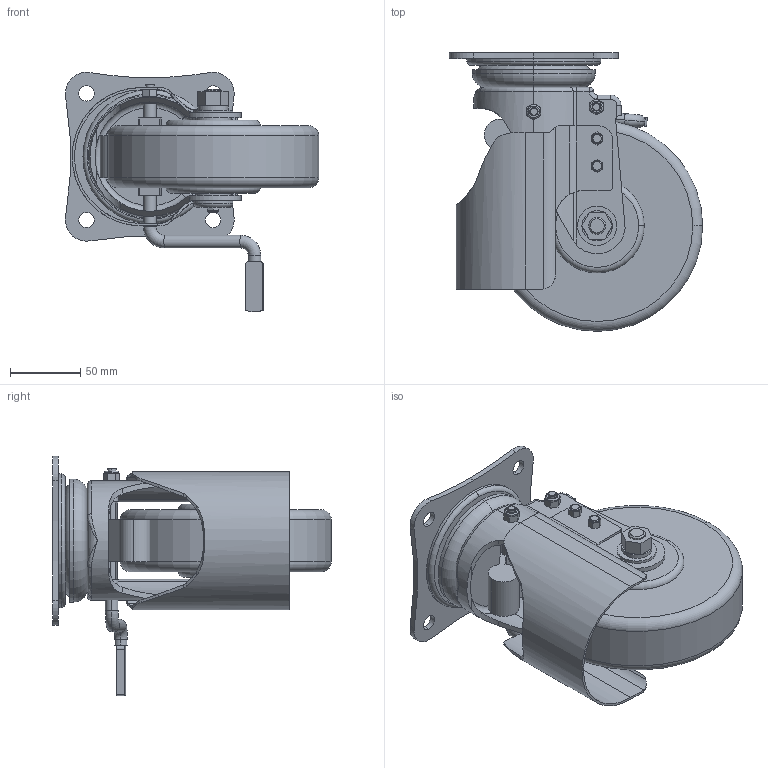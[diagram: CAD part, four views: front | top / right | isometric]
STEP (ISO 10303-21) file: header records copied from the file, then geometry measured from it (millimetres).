
FILE_DESCRIPTION (( 'STEP AP214' ), '1' );
FILE_NAME ('NSMCBJSZAZ150rev0.STEP', '2017-11-29T05:36:27', ( '' ), ( '' ), 'SwSTEP 2.0', 'SolidWorks 2013', '' );
FILE_SCHEMA (( 'AUTOMOTIVE_DESIGN' ));
Length unit declared in the file: millimetre
Products named in the file (7): NSMCBJSZAZ150rev0; NSMCBJSZAZ150rev1; NSMCBJSZAZ150rev2; NSMCBJSZAZ150rev6; NSMCBJSZAZ150rev5; NSMCBJSZAZ150rev3; NSMCBJSZAZ150rev4
Assembly tree (6 placements, depth 2):
  NSMCBJSZAZ150rev0
    NSMCBJSZAZ150rev1
    NSMCBJSZAZ150rev2
    NSMCBJSZAZ150rev3
    NSMCBJSZAZ150rev4
    NSMCBJSZAZ150rev6
    NSMCBJSZAZ150rev5
Bounding box: 180 x 198 x 170.18 mm (x, y, z)
Volume: 1145041.6 mm3; surface area: 211158.9 mm2
Topology: 9 solids, 9 shells, 359 faces, 853 edges, 530 vertices
Faces by surface type: plane 171, cylinder 132, torus 46, cone 6, bspline 4
Entity records: 11129 total; most frequent: CARTESIAN_POINT 2491, DIRECTION 1834, ORIENTED_EDGE 1698, EDGE_CURVE 849, AXIS2_PLACEMENT_3D 711, VERTEX_POINT 530, LINE 412, VECTOR 412
